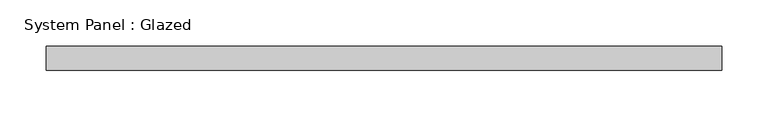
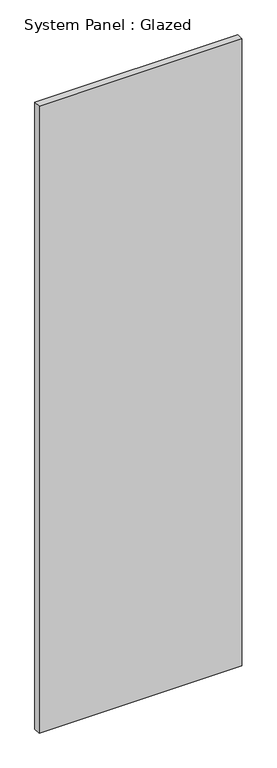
"""IFC4 building model written with IfcOpenShell, lengths in millimetres: plate geometry, System Panel : Glazed."""

from ifc_helpers import new_model, si_unit, origin, origin_with_axes, place, context, project, spatial, polyline, outline, extrude, source, transform, mapped, element, save


def system_panel_glazed_cc37a7cc(model_context):
    return source(origin(), model_context, "Body", "SweptSolid", [
        extrude(outline(polyline([(363.5420701, 19.05), (-363.5420701, 19.05), (-363.5420701, 44.45), (363.5420701, 44.45), (363.5420701, 19.05)])), origin_with_axes(), (0.0, 0.0, 1.0), 2374.9),
    ])


if __name__ == "__main__":
    model = new_model("IFC4")
    model_context = context("Model", 3, world=origin())
    ifc_project = project(units=[si_unit("LENGTHUNIT", "METRE", prefix="MILLI")], contexts=[model_context])
    site = spatial("IfcSite", under=ifc_project)
    building = spatial("IfcBuilding", under=site)
    placement = place(None, origin())
    system_panel_glazed_shape = system_panel_glazed_cc37a7cc(model_context)
    element("IfcPlate", 1, ObjectType="System Panel : Glazed", at=placement, inside=building, context=model_context, shape_type="MappedRepresentation", body=[
        mapped(system_panel_glazed_shape, transform((0.0, 0.0, 0.0), x_axis=(1.0, 0.0, 0.0), y_axis=(0.0, 1.0, 0.0), z_axis=(0.0, 0.0, 1.0))),
    ])
    save(model, "model.ifc")
